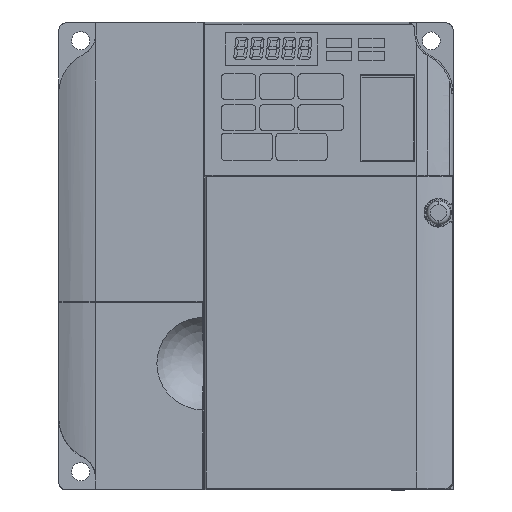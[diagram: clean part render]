
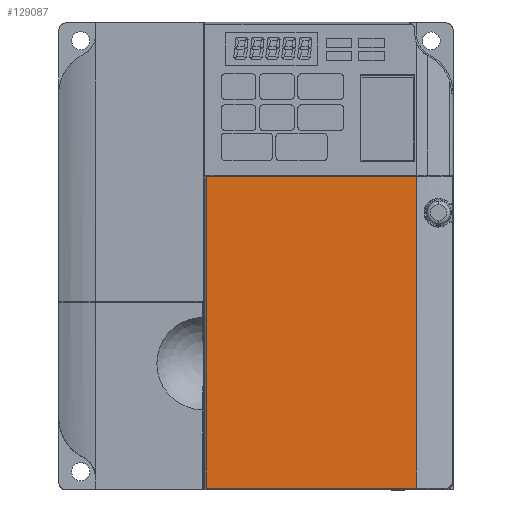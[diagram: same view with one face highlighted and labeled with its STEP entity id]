
A CAD part, top view. The second image highlights one B-rep face of the part: STEP entity #129087.
In plain terms, the highlighted planar face has unit normal (0, 0, 1).
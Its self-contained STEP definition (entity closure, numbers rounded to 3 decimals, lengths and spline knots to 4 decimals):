
#127979=DIRECTION('',(1.,0.,0.));
#127980=VECTOR('',#127979,2.267);
#127981=CARTESIAN_POINT('',(0.0952,-0.7315,
5.5118));
#127982=LINE('',#127981,#127980);
#128195=DIRECTION('',(0.,1.,0.));
#128196=VECTOR('',#128195,3.3614);
#128197=CARTESIAN_POINT('',(2.3622,-0.7315,
5.5118));
#128198=LINE('',#128197,#128196);
#128267=DIRECTION('',(0.,1.,0.));
#128268=VECTOR('',#128267,3.3614);
#128269=CARTESIAN_POINT('',(0.0952,-0.7315,
5.5118));
#128270=LINE('',#128269,#128268);
#128276=DIRECTION('',(-1.,0.,0.));
#128277=VECTOR('',#128276,2.267);
#128278=CARTESIAN_POINT('',(2.3622,2.6299,
5.5118));
#128279=LINE('',#128278,#128277);
#128622=CARTESIAN_POINT('',(0.0952,-0.7315,
5.5118));
#128623=VERTEX_POINT('',#128622);
#128624=CARTESIAN_POINT('',(2.3622,-0.7315,
5.5118));
#128625=VERTEX_POINT('',#128624);
#128647=CARTESIAN_POINT('',(0.0952,2.6299,
5.5118));
#128648=VERTEX_POINT('',#128647);
#128695=CARTESIAN_POINT('',(2.3622,2.6299,
5.5118));
#128696=VERTEX_POINT('',#128695);
#129075=CARTESIAN_POINT('',(0.0787,-0.748,
5.5118));
#129076=DIRECTION('',(0.,0.,1.));
#129077=DIRECTION('',(1.,0.,0.));
#129078=AXIS2_PLACEMENT_3D('',#129075,#129076,#129077);
#129079=PLANE('',#129078);
#129080=ORIENTED_EDGE('',*,*,#129060,.F.);
#129081=ORIENTED_EDGE('',*,*,#128803,.F.);
#129082=ORIENTED_EDGE('',*,*,#128854,.T.);
#129084=ORIENTED_EDGE('',*,*,#129083,.F.);
#129085=EDGE_LOOP('',(#129080,#129081,#129082,#129084));
#129086=FACE_OUTER_BOUND('',#129085,.F.);
#129087=ADVANCED_FACE('',(#129086),#129079,.T.);
#128803=EDGE_CURVE('',#128623,#128625,#127982,.T.);
#128854=EDGE_CURVE('',#128623,#128648,#128270,.T.);
#129060=EDGE_CURVE('',#128625,#128696,#128198,.T.);
#129083=EDGE_CURVE('',#128696,#128648,#128279,.T.);
